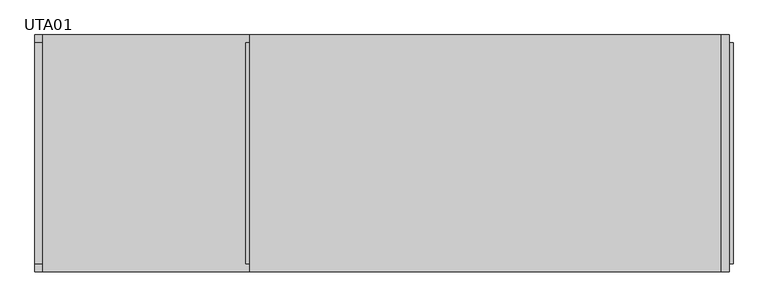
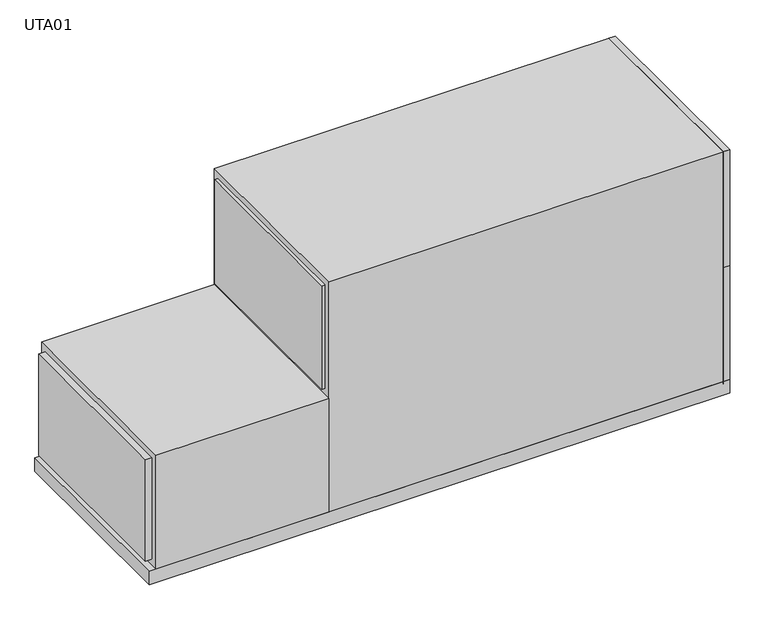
"""IFC4 building model written with IfcOpenShell, lengths in millimetres: proxy geometry, ARC_MDL_ME_UTA_ConnectorAptExt : UTA01."""

import ifcopenshell
import ifcopenshell.guid

model = None  # the IFC model being written
_history = None  # IfcOwnerHistory: only IFC2X3 demands one
_inside = {}  # id of a spatial element -> (the spatial element, [elements in it])
_under = {}  # id of a project, library or spatial element -> (it, [spatial elements below it])
_declared = {}  # id of a project -> (the project, [libraries it declares])
_typed = {}  # id of a type object -> (the type object, [elements of that type])
_made_of = {}  # id of a material, layer set ... -> (it, [elements and type objects made of it])


def new_model(schema):
    """Start an empty IFC model of exactly this schema.

    Asked for "IFC4X3", IfcOpenShell would pick the latest addendum, in which some entities
    have other attributes; the version numbers below select the first issue.
    IFC2X3 requires an IfcOwnerHistory on every rooted entity: one is made here for all.
    """
    global model, _history
    if schema == "IFC4X3":
        model = ifcopenshell.file(schema_version=(4, 3, 0, 0))
    else:
        model = ifcopenshell.file(schema=schema)
    _inside.clear()
    _under.clear()
    _declared.clear()
    _typed.clear()
    _made_of.clear()
    _history = None
    if model.schema == "IFC2X3":
        org = make("IfcOrganization", Name="unknown")
        user = make(
            "IfcPersonAndOrganization",
            ThePerson=make("IfcPerson", FamilyName="unknown"),
            TheOrganization=org,
        )
        app = make(
            "IfcApplication",
            ApplicationDeveloper=org,
            Version="unknown",
            ApplicationFullName="unknown",
            ApplicationIdentifier="unknown",
        )
        _history = make(
            "IfcOwnerHistory",
            OwningUser=user,
            OwningApplication=app,
            ChangeAction="ADDED",
            CreationDate=0,
        )
    return model


def make(cls, **values):
    """One entity of the class cls with the attributes given. An attribute that is None is left unset."""
    return model.create_entity(
        cls, **{name: value for name, value in values.items() if value is not None}
    )


def rooted(cls, **values):
    """An entity with a GlobalId (a new one), such as an element, a storey or a relation."""
    return make(cls, GlobalId=ifcopenshell.guid.new(), OwnerHistory=_history, **values)


def si_unit(unit_type, name, prefix=None):
    """IfcSIUnit, for example si_unit("LENGTHUNIT", "METRE", prefix="MILLI")."""
    return make("IfcSIUnit", UnitType=unit_type, Prefix=prefix, Name=name)


def assignment(units):
    """IfcUnitAssignment: the units of a project."""
    return None if units is None else make("IfcUnitAssignment", Units=units)


def point(xyz):
    """IfcCartesianPoint."""
    return None if xyz is None else make("IfcCartesianPoint", Coordinates=xyz)


def direction(xyz):
    """IfcDirection."""
    return None if xyz is None else make("IfcDirection", DirectionRatios=xyz)


def frame(location, z_axis=None, x_axis=None):
    """IfcAxis2Placement3D, a coordinate frame: its origin and axes. An axis left out is left unset."""
    return make(
        "IfcAxis2Placement3D",
        Location=point(location),
        Axis=direction(z_axis),
        RefDirection=direction(x_axis),
    )


def origin():
    """The frame at (0, 0, 0) with its axes left unset."""
    return frame((0.0, 0.0, 0.0))


def origin_with_axes():
    """The frame at (0, 0, 0) with the z axis (0, 0, 1) and the x axis (1, 0, 0) written out."""
    return frame((0.0, 0.0, 0.0), z_axis=(0.0, 0.0, 1.0), x_axis=(1.0, 0.0, 0.0))


def place(relative_to, where):
    """IfcLocalPlacement: puts the frame where relative to a parent placement (None: the world)."""
    return make(
        "IfcLocalPlacement", PlacementRelTo=relative_to, RelativePlacement=where
    )


def context(
    kind, dimensions, precision=None, world=None, true_north=None, identifier=None
):
    """IfcGeometricRepresentationContext, for example the 3D "Model" context."""
    return make(
        "IfcGeometricRepresentationContext",
        ContextIdentifier=identifier,
        ContextType=kind,
        CoordinateSpaceDimension=dimensions,
        Precision=precision,
        WorldCoordinateSystem=world,
        TrueNorth=true_north,
    )


def project(units=None, contexts=None):
    """IfcProject with its units and contexts."""
    return rooted(
        "IfcProject",
        Name="project",
        RepresentationContexts=contexts,
        UnitsInContext=assignment(units),
    )


def spatial(cls, under=None, at=None, **own):
    """A site, building, storey or space (cls), placed at a placement, below another one or the project."""
    s = rooted(cls, ObjectPlacement=at, **own)
    if under is not None:
        _under.setdefault(under.id(), (under, []))[1].append(s)
    return s


def polyline(points):
    """IfcPolyline through the points."""
    return make("IfcPolyline", Points=[point(p) for p in points])


def outline(outer, holes=None, kind="AREA"):
    """IfcArbitraryClosedProfileDef: a profile drawn as a closed curve; with holes, ...WithVoids."""
    if holes is None:
        return make("IfcArbitraryClosedProfileDef", ProfileType=kind, OuterCurve=outer)
    return make(
        "IfcArbitraryProfileDefWithVoids",
        ProfileType=kind,
        OuterCurve=outer,
        InnerCurves=holes,
    )


def extrude(swept, where, along, depth):
    """IfcExtrudedAreaSolid: the profile swept, set in the frame where, extruded along a direction by depth."""
    return make(
        "IfcExtrudedAreaSolid",
        SweptArea=swept,
        Position=where,
        ExtrudedDirection=direction(along),
        Depth=depth,
    )


def shape(context_of_items, identifier, shape_type, items):
    """IfcShapeRepresentation: the items that make up one representation, for example the "Body"."""
    return make(
        "IfcShapeRepresentation",
        ContextOfItems=context_of_items,
        RepresentationIdentifier=identifier,
        RepresentationType=shape_type,
        Items=items,
    )


def source(mapping_origin, context_of_items, identifier, shape_type, items):
    """IfcRepresentationMap: a shape defined once, which mapped items show again and again."""
    return make(
        "IfcRepresentationMap",
        MappingOrigin=mapping_origin,
        MappedRepresentation=shape(context_of_items, identifier, shape_type, items),
    )


def transform(
    local_origin,
    x_axis=None,
    y_axis=None,
    z_axis=None,
    scale=None,
    scale2=None,
    scale3=None,
    uniform=True,
):
    """IfcCartesianTransformationOperator3D, or its non-uniform kind. x_axis, y_axis, z_axis: its Axis1, 2, 3."""
    if uniform:
        return make(
            "IfcCartesianTransformationOperator3D",
            Axis1=direction(x_axis),
            Axis2=direction(y_axis),
            LocalOrigin=point(local_origin),
            Scale=scale,
            Axis3=direction(z_axis),
        )
    return make(
        "IfcCartesianTransformationOperator3DnonUniform",
        Axis1=direction(x_axis),
        Axis2=direction(y_axis),
        LocalOrigin=point(local_origin),
        Scale=scale,
        Axis3=direction(z_axis),
        Scale2=scale2,
        Scale3=scale3,
    )


def mapped(mapping_source, mapping_target):
    """IfcMappedItem: shows the shape of a source again, moved by a transform."""
    return make(
        "IfcMappedItem", MappingSource=mapping_source, MappingTarget=mapping_target
    )


def made_of(thing, what):
    """Note that an element or type object is made of a material, layer set ...; save() writes the relation."""
    if what is not None:
        _made_of.setdefault(what.id(), (what, []))[1].append(thing)
    return thing


def element(
    cls,
    number,
    at=None,
    inside=None,
    cuts=None,
    type_object=None,
    material=None,
    context=None,
    identifier="Body",
    shape_type=None,
    held_by="IfcProductDefinitionShape",
    body=None,
    shapes=None,
    **own,
):
    """One element of the class cls, such as IfcWall. Its Tag is "e" and its number.

    at: its placement. inside: the storey or other place that contains it. cuts: it is an
    opening in that element (IfcRelVoidsElement). A single representation is given by context,
    identifier, shape_type and body (its items); several are given by shapes. held_by: the class
    of the entity that holds the representations. save() writes the other relations.
    """
    e = rooted(cls, Tag="e%d" % number, ObjectPlacement=at, **own)
    if body is not None:
        shapes = [shape(context, identifier, shape_type, body)]
    if shapes is not None:
        e.Representation = make(held_by, Representations=shapes)
    if inside is not None:
        _inside.setdefault(inside.id(), (inside, []))[1].append(e)
    if cuts is not None:
        rooted(
            "IfcRelVoidsElement", RelatingBuildingElement=cuts, RelatedOpeningElement=e
        )
    if type_object is not None:
        _typed.setdefault(type_object.id(), (type_object, []))[1].append(e)
    return made_of(e, material)


def aggregate(whole, parts):
    """IfcRelAggregates: a whole, such as a stair, and the parts it consists of."""
    return rooted("IfcRelAggregates", RelatingObject=whole, RelatedObjects=parts)


def save(model, path):
    """Write the relations noted so far, then the file.

    IfcRelAggregates (storeys below a building ...), IfcRelContainedInSpatialStructure (elements
    in a storey), IfcRelDefinesByType, IfcRelAssociatesMaterial and IfcRelDeclares: one each for
    every whole, place, type object, material and project.
    """
    for whole, parts in _under.values():
        aggregate(whole, parts)
    for where, things in _inside.values():
        rooted(
            "IfcRelContainedInSpatialStructure",
            RelatedElements=things,
            RelatingStructure=where,
        )
    for kind, things in _typed.values():
        rooted("IfcRelDefinesByType", RelatedObjects=things, RelatingType=kind)
    for what, things in _made_of.values():
        rooted("IfcRelAssociatesMaterial", RelatedObjects=things, RelatingMaterial=what)
    for by, libraries in _declared.values():
        rooted("IfcRelDeclares", RelatingContext=by, RelatedDefinitions=libraries)
    model.write(path)


def uta01_782e1349(model_context):
    return source(origin(), model_context, "Body", "SweptSolid", [
        extrude(outline(polyline([(0.0, -828.0), (-4851.0, -828.0), (-4851.0, 828.0), (0.0, 828.0), (0.0, -828.0)])), origin_with_axes(), (0.0, 0.0, 1.0), 120.0),
        extrude(outline(polyline([(-27.75, 772.5), (-27.75, -772.5), (-3378.75, -772.5), (-3378.75, 772.5), (-27.75, 772.5)])), frame((0.0, 0.0, 1181.5), z_axis=(0.0, 0.0, 1.0), x_axis=(1.0, 0.0, 0.0)), (0.0, 0.0, 1.0), 915.0),
        extrude(outline(polyline([(-3378.75, 772.5), (-3378.75, -772.5), (-4851.0, -772.5), (-4851.0, 772.5), (-3378.75, 772.5)])), frame((0.0, 0.0, 175.5), z_axis=(0.0, 0.0, 1.0), x_axis=(1.0, 0.0, 0.0)), (0.0, 0.0, 1.0), 895.0),
        extrude(outline(polyline([(-3351.0, 828.0), (-3351.0, -828.0), (-4795.5, -828.0), (-4795.5, 828.0), (-3351.0, 828.0)])), frame((0.0, 0.0, 120.0), z_axis=(0.0, 0.0, 1.0), x_axis=(1.0, 0.0, 0.0)), (0.0, 0.0, 1.0), 1006.0),
        extrude(outline(polyline([(27.75, -772.5), (0.0, -772.5), (0.0, 772.5), (27.75, 772.5), (27.75, -772.5)])), frame((0.0, 0.0, 1181.5), z_axis=(0.0, 0.0, 1.0), x_axis=(1.0, 0.0, 0.0)), (0.0, 0.0, 1.0), 915.0),
        extrude(outline(polyline([(-55.5, 828.0), (0.0, 828.0), (0.0, -828.0), (-55.5, -828.0), (-55.5, 828.0)])), frame((0.0, 0.0, 1126.0), z_axis=(0.0, 0.0, 1.0), x_axis=(1.0, 0.0, 0.0)), (0.0, 0.0, 1.0), 1026.0),
        extrude(outline(polyline([(0.0, 828.0), (0.0, -828.0), (-3351.0, -828.0), (-3351.0, 828.0), (0.0, 828.0)])), frame((0.0, 0.0, 100.0), z_axis=(0.0, 0.0, 1.0), x_axis=(1.0, 0.0, 0.0)), (0.0, 0.0, 1.0), 2052.0),
        extrude(outline(polyline([(27.75, -772.5), (0.0, -772.5), (0.0, 772.5), (27.75, 772.5), (27.75, -772.5)])), frame((0.0, 0.0, 175.5), z_axis=(0.0, 0.0, 1.0), x_axis=(1.0, 0.0, 0.0)), (0.0, 0.0, 1.0), 895.0),
        extrude(outline(polyline([(-55.5, 828.0), (0.0, 828.0), (0.0, -828.0), (-55.5, -828.0), (-55.5, 828.0)])), frame((0.0, 0.0, 100.0), z_axis=(0.0, 0.0, 1.0), x_axis=(1.0, 0.0, 0.0)), (0.0, 0.0, 1.0), 1026.0),
    ])


if __name__ == "__main__":
    model = new_model("IFC4")
    model_context = context("Model", 3, world=origin())
    ifc_project = project(units=[si_unit("LENGTHUNIT", "METRE", prefix="MILLI")], contexts=[model_context])
    site = spatial("IfcSite", under=ifc_project)
    building = spatial("IfcBuilding", under=site)
    placement = place(None, origin())
    uta01_shape = uta01_782e1349(model_context)
    element("IfcBuildingElementProxy", 1, Name="ARC_MDL_ME_UTA_ConnectorAptExt : UTA01", ObjectType="ARC_MDL_ME_UTA_ConnectorAptExt : UTA01", at=placement, inside=building, context=model_context, shape_type="MappedRepresentation", body=[
        mapped(uta01_shape, transform((0.0, 0.0, 0.0), x_axis=(1.0, 0.0, 0.0), y_axis=(0.0, 1.0, 0.0), z_axis=(0.0, 0.0, 1.0))),
    ])
    save(model, "model.ifc")
